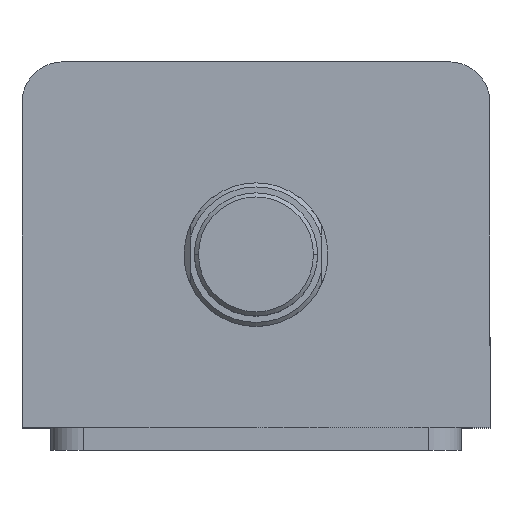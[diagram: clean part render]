
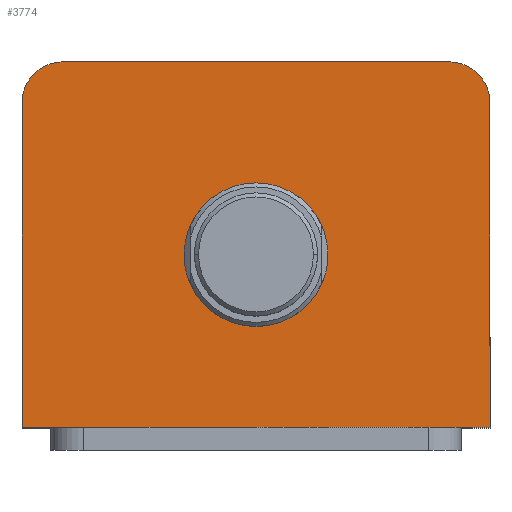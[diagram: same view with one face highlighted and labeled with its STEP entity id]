
A CAD part, top view. The second image highlights one B-rep face of the part: STEP entity #3774.
In plain terms, the highlighted planar face has unit normal (0, 0, 1).
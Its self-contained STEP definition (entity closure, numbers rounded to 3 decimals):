
#39 = CIRCLE ( 'NONE', #1241, 17.5 ) ;
#48 = LINE ( 'NONE', #2805, #53 ) ;
#53 = VECTOR ( 'NONE', #2809, 1000. ) ;
#84 = LINE ( 'NONE', #2847, #87 ) ;
#87 = VECTOR ( 'NONE', #2848, 1000. ) ;
#107 = LINE ( 'NONE', #2339, #110 ) ;
#110 = VECTOR ( 'NONE', #2340, 1000. ) ;
#123 = CIRCLE ( 'NONE', #1221, 10. ) ;
#135 = CIRCLE ( 'NONE', #1214, 10. ) ;
#141 = LINE ( 'NONE', #2409, #144 ) ;
#144 = VECTOR ( 'NONE', #2410, 1000. ) ;
#685 = CIRCLE ( 'NONE', #1260, 17.5 ) ;
#767 = CARTESIAN_POINT ( 'NONE',  ( 0., 0., 157. ) ) ;
#772 = PLANE ( 'NONE',  #3530 ) ;
#774 = DIRECTION ( 'NONE',  ( 0., 0., 1. ) ) ;
#775 = DIRECTION ( 'NONE',  ( 1., 0., 0. ) ) ;
#1214 = AXIS2_PLACEMENT_3D ( 'NONE', #2399, #2400, #2401 ) ;
#1221 = AXIS2_PLACEMENT_3D ( 'NONE', #2373, #2374, #2375 ) ;
#1241 = AXIS2_PLACEMENT_3D ( 'NONE', #2785, #2786, #2787 ) ;
#1260 = AXIS2_PLACEMENT_3D ( 'NONE', #1322, #1323, #1324 ) ;
#1322 = CARTESIAN_POINT ( 'NONE',  ( 0., -2.5, 157. ) ) ;
#1323 = DIRECTION ( 'NONE',  ( 0., 0., 1. ) ) ;
#1324 = DIRECTION ( 'NONE',  ( 1., 0., 0. ) ) ;
#1407 = EDGE_CURVE ( 'NONE', #2206, #2208, #685, .T. ) ;
#1442 = EDGE_CURVE ( 'NONE', #2208, #2206, #39, .T. ) ;
#1451 = EDGE_CURVE ( 'NONE', #2207, #2210, #48, .T. ) ;
#1469 = EDGE_CURVE ( 'NONE', #2210, #2227, #84, .T. ) ;
#2206 = VERTEX_POINT ( 'NONE', #2506 ) ;
#2207 = VERTEX_POINT ( 'NONE', #2507 ) ;
#2208 = VERTEX_POINT ( 'NONE', #2508 ) ;
#2210 = VERTEX_POINT ( 'NONE', #2510 ) ;
#2227 = VERTEX_POINT ( 'NONE', #2526 ) ;
#2239 = VERTEX_POINT ( 'NONE', #2538 ) ;
#2242 = VERTEX_POINT ( 'NONE', #2541 ) ;
#2250 = VERTEX_POINT ( 'NONE', #2549 ) ;
#2339 = CARTESIAN_POINT ( 'NONE',  ( -57., 44.5, 157. ) ) ;
#2340 = DIRECTION ( 'NONE',  ( -1., 0., 0. ) ) ;
#2373 = CARTESIAN_POINT ( 'NONE',  ( 47., 34.5, 157. ) ) ;
#2374 = DIRECTION ( 'NONE',  ( 0., 0., 1. ) ) ;
#2375 = DIRECTION ( 'NONE',  ( 1., 0., 0. ) ) ;
#2399 = CARTESIAN_POINT ( 'NONE',  ( -47., 34.5, 157. ) ) ;
#2400 = DIRECTION ( 'NONE',  ( 0., 0., 1. ) ) ;
#2401 = DIRECTION ( 'NONE',  ( 1., 0., 0. ) ) ;
#2409 = CARTESIAN_POINT ( 'NONE',  ( -57., 44.5, 157. ) ) ;
#2410 = DIRECTION ( 'NONE',  ( 0., -1., 0. ) ) ;
#2506 = CARTESIAN_POINT ( 'NONE',  ( -17.5, -2.5, 157. ) ) ;
#2507 = CARTESIAN_POINT ( 'NONE',  ( -57., -44.5, 157. ) ) ;
#2508 = CARTESIAN_POINT ( 'NONE',  ( 17.5, -2.5, 157. ) ) ;
#2510 = CARTESIAN_POINT ( 'NONE',  ( 57., -44.5, 157. ) ) ;
#2526 = CARTESIAN_POINT ( 'NONE',  ( 57., 34.5, 157. ) ) ;
#2538 = CARTESIAN_POINT ( 'NONE',  ( 47., 44.5, 157. ) ) ;
#2541 = CARTESIAN_POINT ( 'NONE',  ( -47., 44.5, 157. ) ) ;
#2549 = CARTESIAN_POINT ( 'NONE',  ( -57., 34.5, 157. ) ) ;
#2785 = CARTESIAN_POINT ( 'NONE',  ( 0., -2.5, 157. ) ) ;
#2786 = DIRECTION ( 'NONE',  ( 0., 0., 1. ) ) ;
#2787 = DIRECTION ( 'NONE',  ( 1., 0., 0. ) ) ;
#2805 = CARTESIAN_POINT ( 'NONE',  ( -57., -44.5, 157. ) ) ;
#2809 = DIRECTION ( 'NONE',  ( 1., 0., 0. ) ) ;
#2847 = CARTESIAN_POINT ( 'NONE',  ( 57., 44.5, 157. ) ) ;
#2848 = DIRECTION ( 'NONE',  ( 0., 1., 0. ) ) ;
#3242 = FACE_BOUND ( 'NONE', #3381, .T. ) ;
#3246 = FACE_OUTER_BOUND ( 'NONE', #3367, .T. ) ;
#3367 = EDGE_LOOP ( 'NONE', ( #3732, #3768, #3739, #3735, #3767, #3763 ) ) ;
#3381 = EDGE_LOOP ( 'NONE', ( #3749, #3762 ) ) ;
#3530 = AXIS2_PLACEMENT_3D ( 'NONE', #767, #774, #775 ) ;
#3563 = EDGE_CURVE ( 'NONE', #2239, #2242, #107, .T. ) ;
#3576 = EDGE_CURVE ( 'NONE', #2227, #2239, #123, .T. ) ;
#3585 = EDGE_CURVE ( 'NONE', #2242, #2250, #135, .T. ) ;
#3589 = EDGE_CURVE ( 'NONE', #2250, #2207, #141, .T. ) ;
#3732 = ORIENTED_EDGE ( 'NONE', *, *, #3563, .T. ) ;
#3735 = ORIENTED_EDGE ( 'NONE', *, *, #1451, .T. ) ;
#3739 = ORIENTED_EDGE ( 'NONE', *, *, #3589, .T. ) ;
#3749 = ORIENTED_EDGE ( 'NONE', *, *, #1442, .F. ) ;
#3762 = ORIENTED_EDGE ( 'NONE', *, *, #1407, .F. ) ;
#3763 = ORIENTED_EDGE ( 'NONE', *, *, #3576, .T. ) ;
#3767 = ORIENTED_EDGE ( 'NONE', *, *, #1469, .T. ) ;
#3768 = ORIENTED_EDGE ( 'NONE', *, *, #3585, .T. ) ;
#3774 = ADVANCED_FACE ( 'NONE', ( #3242, #3246 ), #772, .T. ) ;
